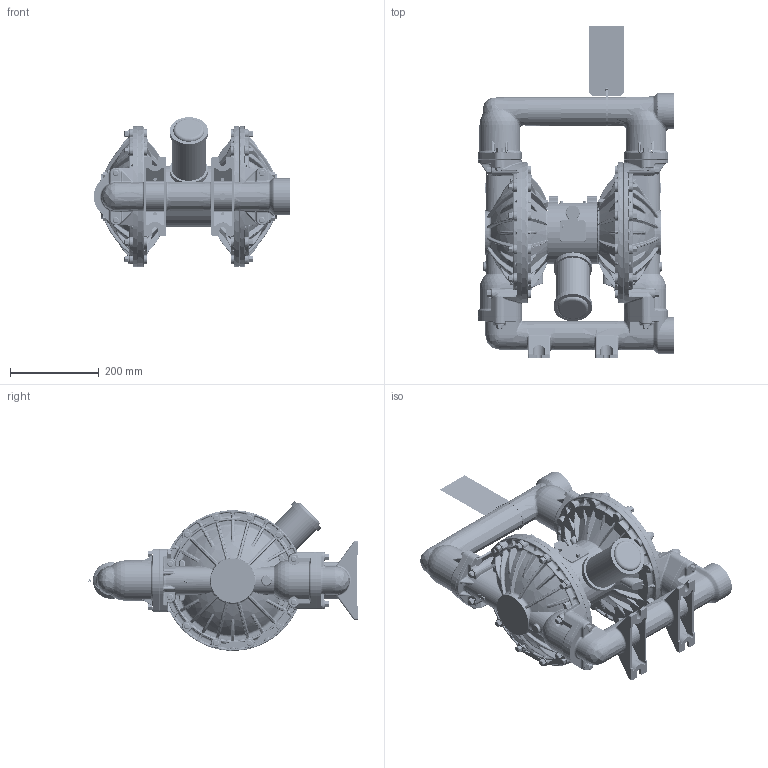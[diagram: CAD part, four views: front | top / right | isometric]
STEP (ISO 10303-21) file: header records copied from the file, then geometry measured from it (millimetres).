
FILE_DESCRIPTION((''),'2;1');
FILE_NAME('24B782-EN-J_PRT','2019-12-31T17:07:50',('qusrh3'),(''),'CREO PARAMETRIC BY PTC INC, 2019030','CREO PARAMETRIC BY PTC INC, 2019030','');
FILE_SCHEMA(('CONFIG_CONTROL_DESIGN'));
Products named in the file (1): 24B782-EN-J_PRT
Bounding box: 443.23 x 749.05 x 338.06 mm (x, y, z)
Surface area: 1276925.9 mm2 (no closed solid volume)
Topology: 0 solids, 147 shells, 7489 faces, 19608 edges, 11797 vertices
Faces by surface type: bspline 3432, plane 1153, torus 1097, cylinder 892, cone 603, sphere 192, extrusion 118, revolution 2
Entity records: 423583 total; most frequent: CARTESIAN_POINT 271456, ORIENTED_EDGE 35269, DIRECTION 25015, EDGE_CURVE 19608, VERTEX_POINT 11797, AXIS2_PLACEMENT_3D 10948, B_SPLINE_CURVE_WITH_KNOTS 9718, EDGE_LOOP 7489
